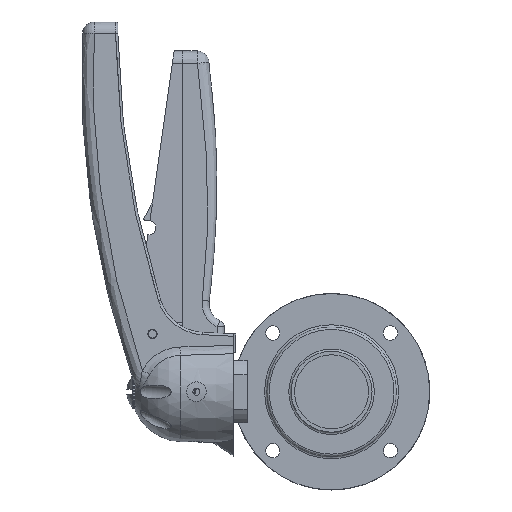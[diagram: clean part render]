
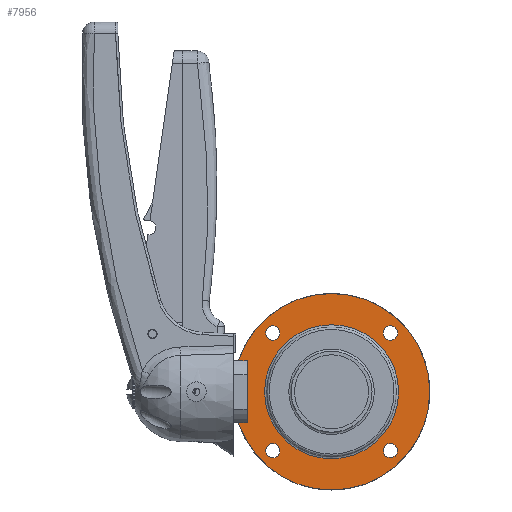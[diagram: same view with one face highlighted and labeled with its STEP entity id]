
A CAD part, left-side view. The second image highlights one B-rep face of the part: STEP entity #7956.
In plain terms, the highlighted planar face has unit normal (-1, 0, 0) as drawn and (1, 0, 0) by its records, which use the part's own axes.
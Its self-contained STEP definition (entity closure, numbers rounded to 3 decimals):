
#2006=FACE_BOUND('',#2890,.T.);
#2007=FACE_BOUND('',#2891,.T.);
#2008=FACE_BOUND('',#2892,.T.);
#2009=FACE_BOUND('',#2893,.T.);
#2010=FACE_BOUND('',#2894,.T.);
#2430=FACE_OUTER_BOUND('',#2889,.T.);
#2889=EDGE_LOOP('',(#7289,#7290));
#2890=EDGE_LOOP('',(#7291));
#2891=EDGE_LOOP('',(#7292));
#2892=EDGE_LOOP('',(#7293));
#2893=EDGE_LOOP('',(#7294));
#2894=EDGE_LOOP('',(#7295,#7296));
#3182=CIRCLE('',#8704,3.1);
#3183=CIRCLE('',#8706,3.1);
#3184=CIRCLE('',#8708,3.1);
#3185=CIRCLE('',#8710,3.1);
#3187=CIRCLE('',#8715,42.5);
#3188=CIRCLE('',#8716,42.5);
#3189=CIRCLE('',#8718,29.);
#3190=CIRCLE('',#8719,29.);
#3916=VERTEX_POINT('',#22664);
#3917=VERTEX_POINT('',#22668);
#3918=VERTEX_POINT('',#22672);
#3919=VERTEX_POINT('',#22676);
#3921=VERTEX_POINT('',#22704);
#3922=VERTEX_POINT('',#22705);
#3923=VERTEX_POINT('',#22710);
#3924=VERTEX_POINT('',#22711);
#5039=EDGE_CURVE('',#3916,#3916,#3182,.T.);
#5041=EDGE_CURVE('',#3917,#3917,#3183,.T.);
#5043=EDGE_CURVE('',#3918,#3918,#3184,.T.);
#5045=EDGE_CURVE('',#3919,#3919,#3185,.T.);
#5049=EDGE_CURVE('',#3921,#3922,#3187,.T.);
#5050=EDGE_CURVE('',#3922,#3921,#3188,.T.);
#5052=EDGE_CURVE('',#3923,#3924,#3189,.T.);
#5053=EDGE_CURVE('',#3924,#3923,#3190,.T.);
#7289=ORIENTED_EDGE('',*,*,#5049,.T.);
#7290=ORIENTED_EDGE('',*,*,#5050,.T.);
#7291=ORIENTED_EDGE('',*,*,#5039,.T.);
#7292=ORIENTED_EDGE('',*,*,#5041,.T.);
#7293=ORIENTED_EDGE('',*,*,#5043,.T.);
#7294=ORIENTED_EDGE('',*,*,#5045,.T.);
#7295=ORIENTED_EDGE('',*,*,#5052,.F.);
#7296=ORIENTED_EDGE('',*,*,#5053,.F.);
#7536=PLANE('',#8717);
#7956=ADVANCED_FACE('',(#2430,#2006,#2007,#2008,#2009,#2010),#7536,.T.);
#8704=AXIS2_PLACEMENT_3D('',#22666,#10577,#10578);
#8706=AXIS2_PLACEMENT_3D('',#22670,#10582,#10583);
#8708=AXIS2_PLACEMENT_3D('',#22674,#10587,#10588);
#8710=AXIS2_PLACEMENT_3D('',#22678,#10592,#10593);
#8715=AXIS2_PLACEMENT_3D('',#22706,#10602,#10603);
#8716=AXIS2_PLACEMENT_3D('',#22707,#10604,#10605);
#8717=AXIS2_PLACEMENT_3D('',#22709,#10607,#10608);
#8718=AXIS2_PLACEMENT_3D('',#22712,#10609,#10610);
#8719=AXIS2_PLACEMENT_3D('',#22713,#10611,#10612);
#10577=DIRECTION('center_axis',(-1.,0.,0.));
#10578=DIRECTION('ref_axis',(0.,0.,1.));
#10582=DIRECTION('center_axis',(-1.,0.,0.));
#10583=DIRECTION('ref_axis',(0.,0.,1.));
#10587=DIRECTION('center_axis',(-1.,0.,0.));
#10588=DIRECTION('ref_axis',(0.,0.,1.));
#10592=DIRECTION('center_axis',(-1.,0.,0.));
#10593=DIRECTION('ref_axis',(0.,0.,1.));
#10602=DIRECTION('center_axis',(1.,0.,0.));
#10603=DIRECTION('ref_axis',(0.,0.,-1.));
#10604=DIRECTION('center_axis',(1.,0.,0.));
#10605=DIRECTION('ref_axis',(0.,0.,-1.));
#10607=DIRECTION('center_axis',(1.,0.,0.));
#10608=DIRECTION('ref_axis',(0.,0.,-1.));
#10609=DIRECTION('center_axis',(1.,0.,0.));
#10610=DIRECTION('ref_axis',(0.,0.,-1.));
#10611=DIRECTION('center_axis',(1.,0.,0.));
#10612=DIRECTION('ref_axis',(0.,0.,-1.));
#22664=CARTESIAN_POINT('',(10.,-25.456,22.356));
#22666=CARTESIAN_POINT('Origin',(10.,-25.456,25.456));
#22668=CARTESIAN_POINT('',(10.,25.456,-28.556));
#22670=CARTESIAN_POINT('Origin',(10.,25.456,-25.456));
#22672=CARTESIAN_POINT('',(10.,-25.456,-28.556));
#22674=CARTESIAN_POINT('Origin',(10.,-25.456,-25.456));
#22676=CARTESIAN_POINT('',(10.,25.456,22.356));
#22678=CARTESIAN_POINT('Origin',(10.,25.456,25.456));
#22704=CARTESIAN_POINT('',(10.,42.5,0.));
#22705=CARTESIAN_POINT('',(10.,-42.5,0.));
#22706=CARTESIAN_POINT('Origin',(10.,0.,0.));
#22707=CARTESIAN_POINT('Origin',(10.,0.,0.));
#22709=CARTESIAN_POINT('Origin',(10.,29.,0.));
#22710=CARTESIAN_POINT('',(10.,29.,0.));
#22711=CARTESIAN_POINT('',(10.,0.,29.));
#22712=CARTESIAN_POINT('Origin',(10.,0.,0.));
#22713=CARTESIAN_POINT('Origin',(10.,0.,0.));
